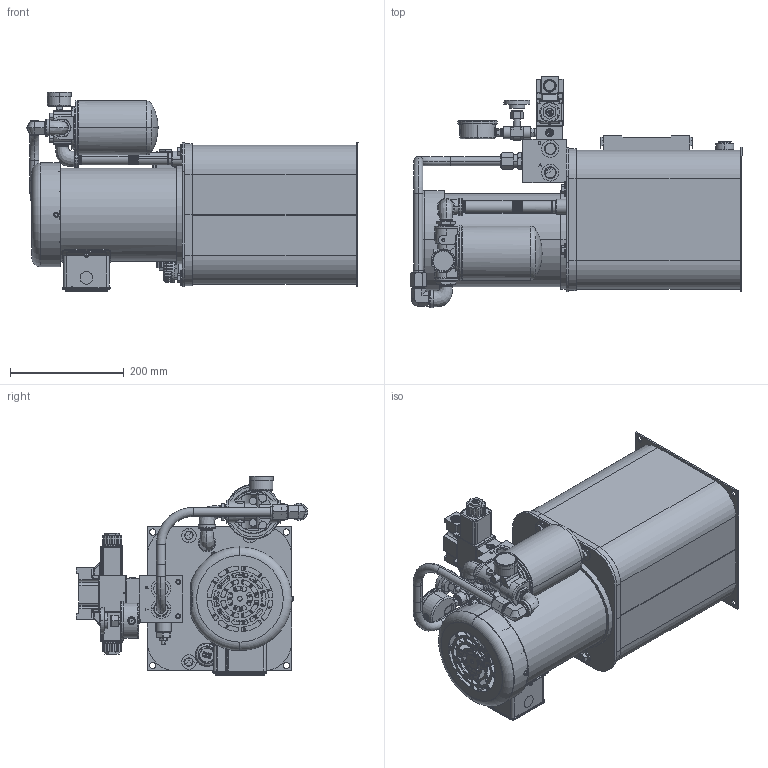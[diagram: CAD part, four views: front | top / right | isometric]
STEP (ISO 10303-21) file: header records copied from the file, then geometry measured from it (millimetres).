
FILE_DESCRIPTION (( 'STEP AP214' ), '1' );
FILE_NAME ('T3V-10-M-P1-F1-059.STEP', '2021-09-18T14:33:52', ( '' ), ( '' ), 'SwSTEP 2.0', 'SolidWorks 2020', '' );
FILE_SCHEMA (( 'AUTOMOTIVE_DESIGN' ));
Length unit declared in the file: inch
Products named in the file (1): T3V-10-M-P1-F1-059
Bounding box: 584.31 x 407.03 x 351.82 mm (x, y, z)
Surface area: 1140809.6 mm2 (no closed solid volume)
Topology: 0 solids, 155 shells, 2107 faces, 8946 edges, 6802 vertices
Faces by surface type: plane 765, cylinder 650, cone 366, bspline 180, torus 115, sphere 31
Entity records: 179148 total; most frequent: CARTESIAN_POINT 83331, DIRECTION 13154, ORIENTED_EDGE 13044, EDGE_CURVE 8921, VERTEX_POINT 6802, AXIS2_PLACEMENT_3D 4506, LINE 4142, VECTOR 4142
